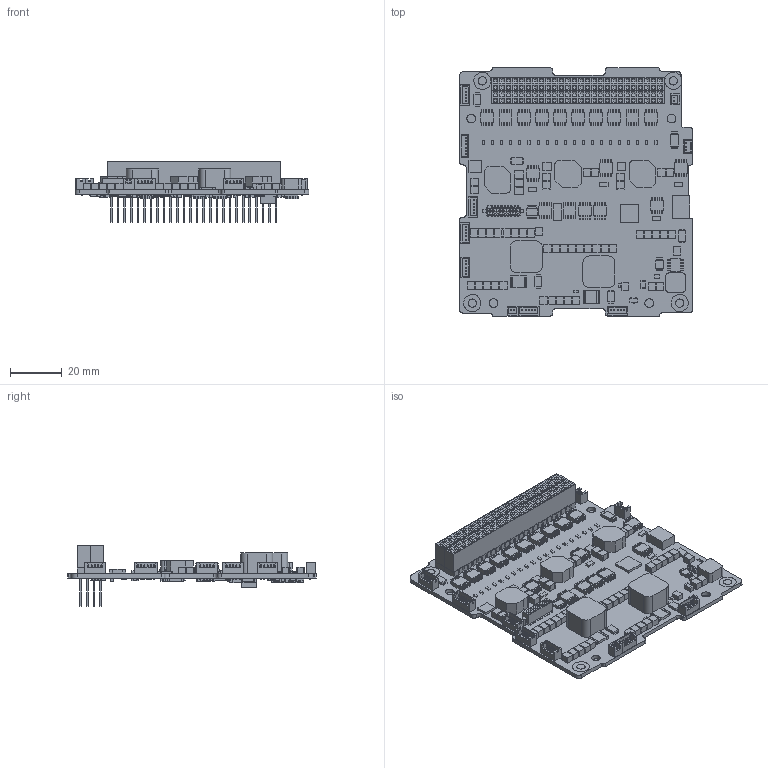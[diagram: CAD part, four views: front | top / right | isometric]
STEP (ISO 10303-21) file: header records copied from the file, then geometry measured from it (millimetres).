
FILE_DESCRIPTION (( 'STEP AP214' ), '1' );
FILE_NAME ('3D-25-02452RevF_18_10_22_defeature_2.STEP', '2022-10-19T10:24:06', ( '' ), ( '' ), 'SwSTEP 2.0', 'SolidWorks 2021', '' );
FILE_SCHEMA (( 'AUTOMOTIVE_DESIGN' ));
Length unit declared in the file: millimetre
Products named in the file (1): 3D-25-02452RevF_18_10_22_defeature_2
Bounding box: 90.17 x 95.89 x 23.24 mm (x, y, z)
Surface area: 41267.3 mm2 (no closed solid volume)
Topology: 0 solids, 317 shells, 7905 faces, 20510 edges, 13334 vertices
Faces by surface type: plane 7411, cylinder 482, bspline 8, torus 4
Entity records: 260526 total; most frequent: CARTESIAN_POINT 73120, ORIENTED_EDGE 41014, DIRECTION 31826, EDGE_CURVE 20510, LINE 15476, VECTOR 15476, VERTEX_POINT 13334, EDGE_LOOP 8466
